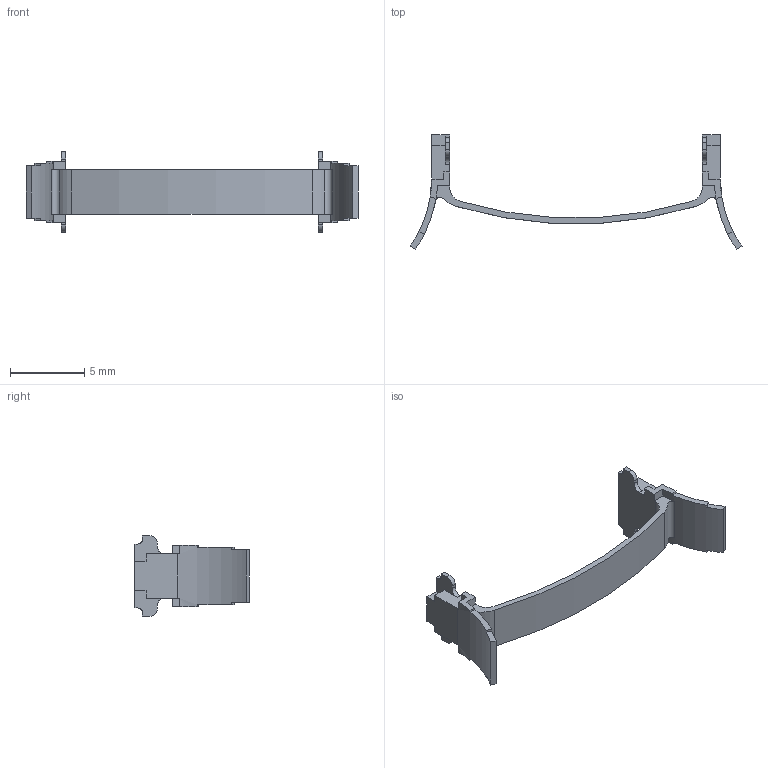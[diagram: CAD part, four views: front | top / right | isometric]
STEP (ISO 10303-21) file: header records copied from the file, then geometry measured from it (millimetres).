
FILE_DESCRIPTION((''),'2;1');
FILE_NAME('E:\端から修正\NHA-04.stp','2013-11-07T16:50:38',('AMS8'),(''),'Autodesk Inventor 2008','Autodesk Inventor 2008','');
FILE_SCHEMA(('AUTOMOTIVE_DESIGN { 1 0 10303 214 1 1 1 1 }'));
Length unit declared in the file: millimetre
Products named in the file (2): DEFAULT
Assembly tree (1 placements, depth 2):
  DEFAULT
    DEFAULT
Bounding box: 22.33 x 7.69 x 5.4 mm (x, y, z)
Volume: 66.5 mm3; surface area: 293.2 mm2
Topology: 1 solids, 1 shells, 102 faces, 300 edges, 200 vertices
Faces by surface type: plane 78, cylinder 24
Entity records: 3448 total; most frequent: CARTESIAN_POINT 617, ORIENTED_EDGE 600, DIRECTION 574, EDGE_CURVE 300, VECTOR 228, LINE 228, VERTEX_POINT 200, AXIS2_PLACEMENT_3D 173
